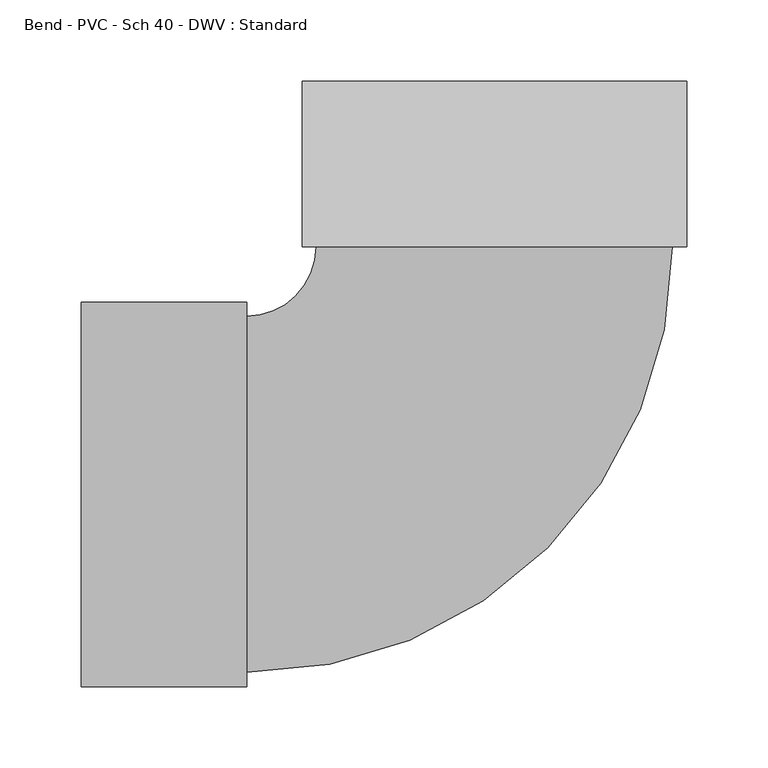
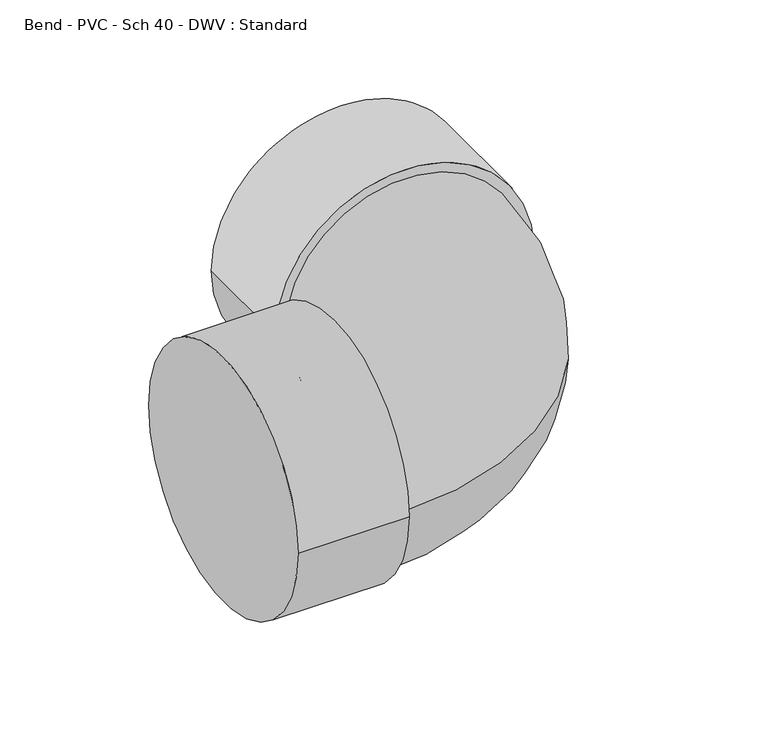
"""IFC4 building model written with IfcOpenShell, lengths in millimetres: pipe fitting geometry, Bend - PVC - Sch 40 - DWV : Standard."""

from ifc_helpers import new_model, si_unit, point, frame, origin, place, context, project, spatial, circle_curve, ellipse_curve, trimmed, source, transform, mapped, element, save
from ifc_brep_helpers import plane_surface, cylinder_surface, revolved_surface, advanced_brep


def bend_pvc_sch_40_dwv_standard_0d5fb2e9(model_context):
    return source(origin(), model_context, "Body", "AdvancedBrep", [
        advanced_brep(
        [(-254.0, -118.2497, 0.0), (-254.0, 118.2497, 0.0), (-152.4, -118.2497, 0.0), (-152.4, 118.2497, 0.0), (-152.4, -109.5375, 0.0), (-152.4, 109.5375, 0.0), (-109.544618, 152.3948837, 0.0), (109.5303818, 152.405116, 0.0), (118.2425818, 152.4055229, 0.0), (-118.256818, 152.3944768, 0.0), (118.2378364, 254.0055228, 0.0), (-118.2615634, 253.9944767, 0.0)],
        [
            (0, 1, circle_curve(frame((-254.0, 0.0, 0.0), z_axis=(-1.0, 0.0, 0.0), x_axis=(0.0, 1.0, 0.0)), 118.2497)),
            (1, 0, circle_curve(frame((-254.0, 0.0, 0.0), z_axis=(-1.0, 0.0, 0.0), x_axis=(0.0, 1.0, 0.0)), 118.2497)),
            (2, 3, circle_curve(frame((-152.4, 0.0, 0.0), z_axis=(1.0, 0.0, 0.0), x_axis=(0.0, 1.0, 0.0)), 118.2497)),
            (3, 2, circle_curve(frame((-152.4, 0.0, 0.0), z_axis=(1.0, 0.0, 0.0), x_axis=(0.0, 1.0, 0.0)), 118.2497)),
            (4, 5, circle_curve(frame((-152.4, 0.0, 0.0), z_axis=(-1.0, 0.0, 0.0), x_axis=(0.0, 1.0, 0.0)), 109.5375)),
            (5, 4, circle_curve(frame((-152.4, 0.0, 0.0), z_axis=(-1.0, 0.0, 0.0), x_axis=(0.0, 1.0, 0.0)), 109.5375)),
            (0, 2),
            (3, 1),
            (6, 5, circle_curve(frame((-152.4, 152.3928821, 0.0), z_axis=(0.0, 0.0, -1.0), x_axis=(0.0, -1.0, 0.0)), 42.8553821)),
            (4, 7, circle_curve(frame((-152.4, 152.3928821, 0.0), z_axis=(0.0, 0.0, 1.0), x_axis=(0.0, -1.0, 0.0)), 261.9303821)),
            (7, 6, circle_curve(frame((-0.0071181, 152.3999998, 0.0), z_axis=(4.670665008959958e-05, -0.9999999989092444, 0.0), x_axis=(-0.9999999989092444, -4.670665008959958e-05, 0.0)), 109.5375)),
            (6, 7, circle_curve(frame((-0.0071181, 152.3999998, 0.0), z_axis=(4.670665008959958e-05, -0.9999999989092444, 0.0), x_axis=(-0.9999999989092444, -4.670665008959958e-05, 0.0)), 109.5375)),
            (8, 9, circle_curve(frame((-0.0071181, 152.3999998, 0.0), z_axis=(4.6706650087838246e-05, -0.9999999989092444, 0.0), x_axis=(-0.9999999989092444, -4.6706650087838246e-05, 0.0)), 118.2497)),
            (9, 8, circle_curve(frame((-0.0071181, 152.3999998, 0.0), z_axis=(4.6706650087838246e-05, -0.9999999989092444, 0.0), x_axis=(-0.9999999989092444, -4.6706650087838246e-05, 0.0)), 118.2497)),
            (10, 11, circle_curve(frame((-0.0118635, 253.9999997, 0.0), z_axis=(-4.6706650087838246e-05, 0.9999999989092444, 0.0), x_axis=(-0.9999999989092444, -4.6706650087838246e-05, 0.0)), 118.2497)),
            (11, 10, circle_curve(frame((-0.0118635, 253.9999997, 0.0), z_axis=(-4.6706650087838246e-05, 0.9999999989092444, 0.0), x_axis=(-0.9999999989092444, -4.6706650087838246e-05, 0.0)), 118.2497)),
            (8, 10),
            (11, 9),
        ],
        [
            plane_surface(frame((-254.0, 0.0, 0.0), z_axis=(-1.0, 0.0, 0.0), x_axis=(0.0, 0.0, 1.0))),
            plane_surface(frame((-152.4, 0.0, 0.0), z_axis=(1.0, 0.0, 0.0), x_axis=(0.0, 0.0, 1.0))),
            cylinder_surface(frame((-254.0, 0.0, 0.0), z_axis=(-1.0, 0.0, 0.0), x_axis=(0.0, 1.0, 0.0)), 118.2497),
            revolved_surface(trimmed(ellipse_curve(frame((-152.4, 0.0, 0.0), z_axis=(-1.0, 0.0, 0.0), x_axis=(0.0, 1.0, 0.0)), 109.5375, 109.5375), [point((-152.4, -109.5375, 0.0))], [point((-152.4, 109.5375, 0.0))], True, "CARTESIAN"), (-152.4, 152.3928821, 0.0), (0.0, 0.0, 1.0)),
            revolved_surface(trimmed(ellipse_curve(frame((-152.4, 0.0, 0.0), z_axis=(-1.0, 0.0, 0.0), x_axis=(0.0, 1.0, 0.0)), 109.5375, 109.5375), [point((-152.4, 109.5375, 0.0))], [point((-152.4, -109.5375, 0.0))], True, "CARTESIAN"), (-152.4, 152.3928821, 0.0), (0.0, 0.0, 1.0)),
            plane_surface(frame((-0.0071181, 152.3999998, 0.0), z_axis=(4.6706650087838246e-05, -0.9999999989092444, 0.0), x_axis=(0.0, 0.0, 1.0))),
            plane_surface(frame((-0.0118635, 253.9999997, 0.0), z_axis=(-4.6706650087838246e-05, 0.9999999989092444, 0.0), x_axis=(0.0, 0.0, 1.0))),
            cylinder_surface(frame((-0.0071181, 152.3999998, 0.0), z_axis=(4.6706650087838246e-05, -0.9999999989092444, 0.0), x_axis=(-0.9999999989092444, -4.6706650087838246e-05, 0.0)), 118.2497),
        ],
        [
            (0, [[1, 2]]),
            (1, [[3, 4], [5, 6]]),
            (2, [[-1, 7, -4, 8]]),
            (2, [[-2, -8, -3, -7]]),
            (3, [[9, -5, 10, 11]]),
            (4, [[-9, 12, -10, -6]]),
            (5, [[13, 14], [-11, -12]]),
            (6, [[15, 16]]),
            (7, [[-13, 17, -16, 18]]),
            (7, [[-14, -18, -15, -17]]),
        ],
    ),
    ])


if __name__ == "__main__":
    model = new_model("IFC4")
    model_context = context("Model", 3, world=origin())
    ifc_project = project(units=[si_unit("LENGTHUNIT", "METRE", prefix="MILLI")], contexts=[model_context])
    site = spatial("IfcSite", under=ifc_project)
    building = spatial("IfcBuilding", under=site)
    placement = place(None, origin())
    bend_pvc_sch_40_dwv_standard_shape = bend_pvc_sch_40_dwv_standard_0d5fb2e9(model_context)
    element("IfcPipeFitting", 1, ObjectType="Bend - PVC - Sch 40 - DWV : Standard", at=placement, inside=building, context=model_context, shape_type="MappedRepresentation", body=[
        mapped(bend_pvc_sch_40_dwv_standard_shape, transform((0.0, 0.0, 0.0), x_axis=(1.0, 0.0, 0.0), y_axis=(0.0, 1.0, 0.0), z_axis=(0.0, 0.0, 1.0))),
    ])
    save(model, "model.ifc")
